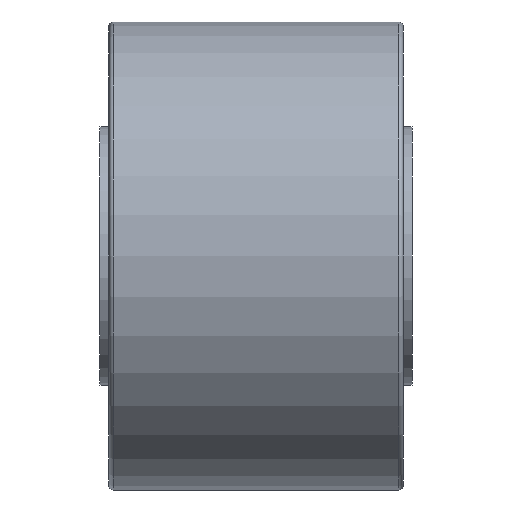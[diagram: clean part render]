
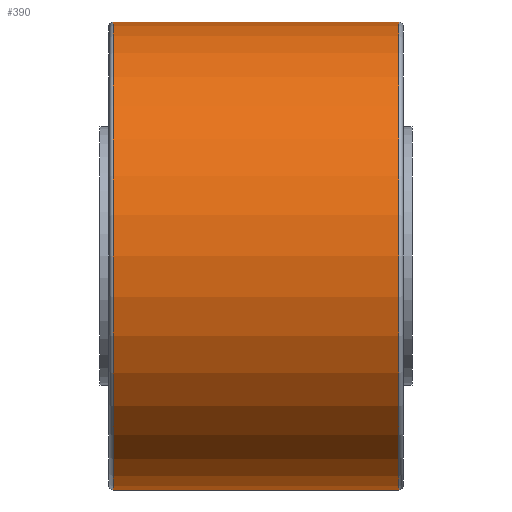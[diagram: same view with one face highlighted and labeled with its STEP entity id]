
A CAD part, front view. The second image highlights one B-rep face of the part: STEP entity #390.
In plain terms, the highlighted cylindrical face has radius 52.5 mm (diameter 105 mm), a partial arc.
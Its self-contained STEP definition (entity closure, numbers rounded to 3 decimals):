
#183 = VERTEX_POINT ( 'NONE', #1079 ) ;
#193 = VERTEX_POINT ( 'NONE', #1112 ) ;
#199 = VERTEX_POINT ( 'NONE', #1111 ) ;
#202 = VERTEX_POINT ( 'NONE', #1096 ) ;
#323 = EDGE_CURVE ( 'NONE', #183, #202, #1315, .T. ) ;
#370 = EDGE_CURVE ( 'NONE', #193, #199, #1449, .T. ) ;
#390 = ADVANCED_FACE ( 'NONE', ( #1434 ), #1478, .T. ) ;
#391 = EDGE_CURVE ( 'NONE', #183, #193, #1514, .T. ) ;
#392 = EDGE_CURVE ( 'NONE', #199, #202, #1509, .T. ) ;
#394 = ORIENTED_EDGE ( 'NONE', *, *, #392, .T. ) ;
#398 = ORIENTED_EDGE ( 'NONE', *, *, #323, .F. ) ;
#404 = EDGE_LOOP ( 'NONE', ( #398, #455, #454, #394 ) ) ;
#454 = ORIENTED_EDGE ( 'NONE', *, *, #370, .T. ) ;
#455 = ORIENTED_EDGE ( 'NONE', *, *, #391, .T. ) ;
#1079 = CARTESIAN_POINT ( 'NONE',  ( 32., 0., -52.5 ) ) ;
#1096 = CARTESIAN_POINT ( 'NONE',  ( -32., 0., -52.5 ) ) ;
#1111 = CARTESIAN_POINT ( 'NONE',  ( -32., 0., 52.5 ) ) ;
#1112 = CARTESIAN_POINT ( 'NONE',  ( 32., 0., 52.5 ) ) ;
#1315 = LINE ( 'NONE', #1357, #1356 ) ;
#1355 = DIRECTION ( 'NONE',  ( -1., 0., 0. ) ) ;
#1356 = VECTOR ( 'NONE', #1355, 1000. ) ;
#1357 = CARTESIAN_POINT ( 'NONE',  ( -41.122, 0., -52.5 ) ) ;
#1434 = FACE_OUTER_BOUND ( 'NONE', #404, .T. ) ;
#1446 = DIRECTION ( 'NONE',  ( -1., 0., 0. ) ) ;
#1447 = VECTOR ( 'NONE', #1446, 1000. ) ;
#1448 = CARTESIAN_POINT ( 'NONE',  ( -41.122, 0., 52.5 ) ) ;
#1449 = LINE ( 'NONE', #1448, #1447 ) ;
#1465 = CARTESIAN_POINT ( 'NONE',  ( 32., 0., 0. ) ) ;
#1466 = AXIS2_PLACEMENT_3D ( 'NONE', #1508, #1507, #1506 ) ;
#1469 = DIRECTION ( 'NONE',  ( 0., 0., 1. ) ) ;
#1470 = DIRECTION ( 'NONE',  ( -1., 0., 0. ) ) ;
#1471 = AXIS2_PLACEMENT_3D ( 'NONE', #1465, #1513, #1512 ) ;
#1476 = CARTESIAN_POINT ( 'NONE',  ( -41.122, 0., 0. ) ) ;
#1478 = CYLINDRICAL_SURFACE ( 'NONE', #1515, 52.5 ) ;
#1506 = DIRECTION ( 'NONE',  ( 0., 0., -1. ) ) ;
#1507 = DIRECTION ( 'NONE',  ( 1., 0., 0. ) ) ;
#1508 = CARTESIAN_POINT ( 'NONE',  ( -32., 0., 0. ) ) ;
#1509 = CIRCLE ( 'NONE', #1466, 52.5 ) ;
#1512 = DIRECTION ( 'NONE',  ( 0., 0., 1. ) ) ;
#1513 = DIRECTION ( 'NONE',  ( -1., 0., 0. ) ) ;
#1514 = CIRCLE ( 'NONE', #1471, 52.5 ) ;
#1515 = AXIS2_PLACEMENT_3D ( 'NONE', #1476, #1470, #1469 ) ;
